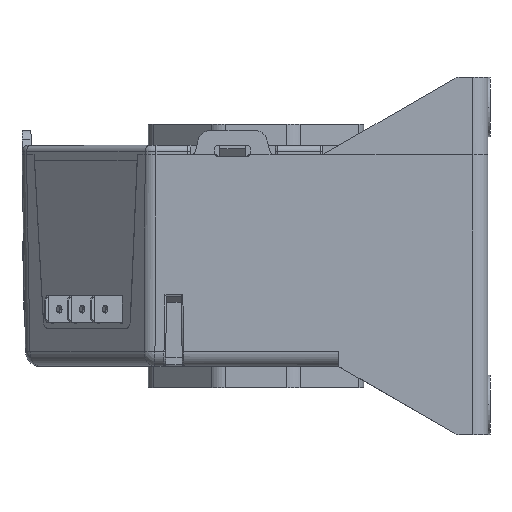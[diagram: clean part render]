
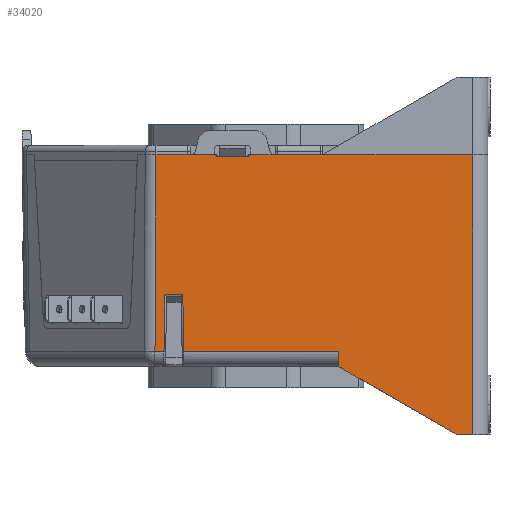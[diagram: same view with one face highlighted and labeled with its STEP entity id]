
A CAD part, left-side view. The second image highlights one B-rep face of the part: STEP entity #34020.
In plain terms, the highlighted planar face has unit normal (-1, 0, -0.018).
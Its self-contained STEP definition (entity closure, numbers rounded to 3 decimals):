
#27230=CARTESIAN_POINT('',(-50.,24.009,-7.2));
#27240=VERTEX_POINT('',#27230);
#27270=CARTESIAN_POINT('',(-50.,24.009,-7.2));
#27280=DIRECTION('',(0.017,0.005,
-1.));
#27290=VECTOR('',#27280,1.);
#27300=LINE('',#27270,#27290);
#27310=CARTESIAN_POINT('',(-49.192,24.245,
-53.463));
#27320=VERTEX_POINT('',#27310);
#27330=EDGE_CURVE('',#27240,#27320,#27300,.T.);
#28080=CARTESIAN_POINT('',(-49.192,17.47,
-53.463));
#28090=VERTEX_POINT('',#28080);
#28120=CARTESIAN_POINT('',(-49.192,-18.987,
-53.463));
#28130=DIRECTION('',(0.,1.,0.));
#28140=VECTOR('',#28130,1.);
#28150=LINE('',#28120,#28140);
#28160=CARTESIAN_POINT('',(-49.192,-18.987,
-53.463));
#28170=VERTEX_POINT('',#28160);
#28180=EDGE_CURVE('',#28170,#28090,#28150,.T.);
#28360=CARTESIAN_POINT('',(-49.192,22.13,
-53.463));
#28370=DIRECTION('',(0.,1.,0.));
#28380=VECTOR('',#28370,1.);
#28390=LINE('',#28360,#28380);
#28400=CARTESIAN_POINT('',(-49.192,22.13,
-53.463));
#28410=VERTEX_POINT('',#28400);
#28420=EDGE_CURVE('',#28410,#27320,#28390,.T.);
#29300=CARTESIAN_POINT('',(-49.192,22.13,
-53.463));
#29310=DIRECTION('',(-0.017,-0.017,
1.));
#29320=VECTOR('',#29310,1.);
#29330=LINE('',#29300,#29320);
#29340=CARTESIAN_POINT('',(-49.425,21.897,
-40.134));
#29350=VERTEX_POINT('',#29340);
#29360=EDGE_CURVE('',#28410,#29350,#29330,.T.);
#32140=CARTESIAN_POINT('',(-49.425,17.703,
-40.134));
#32150=VERTEX_POINT('',#32140);
#32180=CARTESIAN_POINT('',(-49.425,17.703,
-40.134));
#32190=DIRECTION('',(0.017,-0.017,
-1.));
#32200=VECTOR('',#32190,1.);
#32210=LINE('',#32180,#32200);
#32220=EDGE_CURVE('',#32150,#28090,#32210,.T.);
#32440=CARTESIAN_POINT('',(-49.425,17.703,
-40.134));
#32450=DIRECTION('',(0.,1.,0.));
#32460=VECTOR('',#32450,1.);
#32470=LINE('',#32440,#32460);
#32480=EDGE_CURVE('',#32150,#29350,#32470,.T.);
#32600=CARTESIAN_POINT('',(-49.635,-26.301,
-28.101));
#32610=DIRECTION('',(-1.,-0.,-0.017));
#32620=DIRECTION('',(0.,-1.,0.));
#32630=AXIS2_PLACEMENT_3D('',#32600,#32610,#32620);
#32640=PLANE('',#32630);
#32650=ORIENTED_EDGE('',*,*,#29360,.T.);
#32660=ORIENTED_EDGE('',*,*,#28420,.F.);
#32670=ORIENTED_EDGE('',*,*,#27330,.T.);
#32680=CARTESIAN_POINT('',(-50.,16.5,-7.2));
#32690=DIRECTION('',(0.,1.,0.));
#32700=VECTOR('',#32690,1.);
#32710=LINE('',#32680,#32700);
#32720=CARTESIAN_POINT('',(-50.,16.5,-7.2));
#32730=VERTEX_POINT('',#32720);
#32740=EDGE_CURVE('',#32730,#27240,#32710,.T.);
#32750=ORIENTED_EDGE('',*,*,#32740,.T.);
#32760=CARTESIAN_POINT('',(-50.,15.767,-7.2));
#32770=DIRECTION('',(0.,1.,0.));
#32780=VECTOR('',#32770,1.);
#32790=LINE('',#32760,#32780);
#32800=CARTESIAN_POINT('',(-50.,15.767,-7.2));
#32810=VERTEX_POINT('',#32800);
#32820=EDGE_CURVE('',#32810,#32730,#32790,.T.);
#32830=ORIENTED_EDGE('',*,*,#32820,.T.);
#32840=CARTESIAN_POINT('',(-50.,10.166,-7.2));
#32850=DIRECTION('',(0.,1.,0.));
#32860=VECTOR('',#32850,1.);
#32870=LINE('',#32840,#32860);
#32880=CARTESIAN_POINT('',(-50.,10.166,-7.2));
#32890=VERTEX_POINT('',#32880);
#32900=EDGE_CURVE('',#32890,#32810,#32870,.T.);
#32910=ORIENTED_EDGE('',*,*,#32900,.T.);
#32920=CARTESIAN_POINT('',(-50.009,9.3,-6.7));
#32930=DIRECTION('',(1.,0.,0.017));
#32940=DIRECTION('',(-0.017,0.,1.));
#32950=AXIS2_PLACEMENT_3D('',#32920,#32930,#32940);
#32960=ELLIPSE('',#32950,1.,1.);
#32970=CARTESIAN_POINT('',(-49.991,9.3,-7.7));
#32980=VERTEX_POINT('',#32970);
#32990=EDGE_CURVE('',#32980,#32890,#32960,.T.);
#33000=ORIENTED_EDGE('',*,*,#32990,.T.);
#33010=CARTESIAN_POINT('',(-49.991,9.3,-7.7));
#33020=DIRECTION('',(0.,-1.,0.));
#33030=VECTOR('',#33020,1.);
#33040=LINE('',#33010,#33030);
#33050=CARTESIAN_POINT('',(-49.991,2.7,-7.7));
#33060=VERTEX_POINT('',#33050);
#33070=EDGE_CURVE('',#32980,#33060,#33040,.T.);
#33080=ORIENTED_EDGE('',*,*,#33070,.F.);
#33090=CARTESIAN_POINT('',(-50.009,2.7,-6.7));
#33100=DIRECTION('',(1.,0.,0.017));
#33110=DIRECTION('',(-0.017,0.,1.));
#33120=AXIS2_PLACEMENT_3D('',#33090,#33100,#33110);
#33130=ELLIPSE('',#33120,1.,1.);
#33140=CARTESIAN_POINT('',(-50.,1.834,-7.2));
#33150=VERTEX_POINT('',#33140);
#33160=EDGE_CURVE('',#33150,#33060,#33130,.T.);
#33170=ORIENTED_EDGE('',*,*,#33160,.T.);
#33180=CARTESIAN_POINT('',(-50.,-3.767,-7.2));
#33190=DIRECTION('',(0.,1.,0.));
#33200=VECTOR('',#33190,1.);
#33210=LINE('',#33180,#33200);
#33220=CARTESIAN_POINT('',(-50.,-3.767,-7.2));
#33230=VERTEX_POINT('',#33220);
#33240=EDGE_CURVE('',#33230,#33150,#33210,.T.);
#33250=ORIENTED_EDGE('',*,*,#33240,.T.);
#33260=CARTESIAN_POINT('',(-50.,-4.5,-7.2));
#33270=DIRECTION('',(0.,1.,0.));
#33280=VECTOR('',#33270,1.);
#33290=LINE('',#33260,#33280);
#33300=CARTESIAN_POINT('',(-50.,-4.5,-7.2));
#33310=VERTEX_POINT('',#33300);
#33320=EDGE_CURVE('',#33310,#33230,#33290,.T.);
#33330=ORIENTED_EDGE('',*,*,#33320,.T.);
#33340=CARTESIAN_POINT('',(-50.,-14.65,-7.2));
#33350=DIRECTION('',(0.,1.,0.));
#33360=VECTOR('',#33350,1.);
#33370=LINE('',#33340,#33360);
#33380=CARTESIAN_POINT('',(-50.,-14.65,-7.2));
#33390=VERTEX_POINT('',#33380);
#33400=EDGE_CURVE('',#33390,#33310,#33370,.T.);
#33410=ORIENTED_EDGE('',*,*,#33400,.T.);
#33420=CARTESIAN_POINT('',(-50.,-15.177,-7.2));
#33430=DIRECTION('',(0.,1.,0.));
#33440=VECTOR('',#33430,1.);
#33450=LINE('',#33420,#33440);
#33460=CARTESIAN_POINT('',(-50.,-15.177,-7.2));
#33470=VERTEX_POINT('',#33460);
#33480=EDGE_CURVE('',#33470,#33390,#33450,.T.);
#33490=ORIENTED_EDGE('',*,*,#33480,.T.);
#33500=CARTESIAN_POINT('',(-50.,-50.4,-7.2));
#33510=DIRECTION('',(0.,1.,0.));
#33520=VECTOR('',#33510,1.);
#33530=LINE('',#33500,#33520);
#33540=CARTESIAN_POINT('',(-50.,-50.4,-7.2));
#33550=VERTEX_POINT('',#33540);
#33560=EDGE_CURVE('',#33550,#33470,#33530,.T.);
#33570=ORIENTED_EDGE('',*,*,#33560,.T.);
#33580=CARTESIAN_POINT('',(-50.,-50.4,-7.2));
#33590=DIRECTION('',(0.017,0.,-1.));
#33600=VECTOR('',#33590,1.);
#33610=LINE('',#33580,#33600);
#33620=CARTESIAN_POINT('',(-48.851,-50.4,-73.));
#33630=VERTEX_POINT('',#33620);
#33640=EDGE_CURVE('',#33550,#33630,#33610,.T.);
#33650=ORIENTED_EDGE('',*,*,#33640,.F.);
#33660=CARTESIAN_POINT('',(-48.851,-50.4,-73.));
#33670=DIRECTION('',(0.,1.,0.));
#33680=VECTOR('',#33670,1.);
#33690=LINE('',#33660,#33680);
#33700=CARTESIAN_POINT('',(-48.851,-47.343,-73.));
#33710=VERTEX_POINT('',#33700);
#33720=EDGE_CURVE('',#33630,#33710,#33690,.T.);
#33730=ORIENTED_EDGE('',*,*,#33720,.F.);
#33740=CARTESIAN_POINT('',(-48.893,-47.343,-70.6));
#33750=DIRECTION('',(1.,0.,0.017));
#33760=DIRECTION('',(0.017,0.,-1.));
#33770=AXIS2_PLACEMENT_3D('',#33740,#33750,#33760);
#33780=ELLIPSE('',#33770,2.4,2.4);
#33790=CARTESIAN_POINT('',(-48.857,-46.143,
-72.678));
#33800=VERTEX_POINT('',#33790);
#33810=EDGE_CURVE('',#33710,#33800,#33780,.T.);
#33820=ORIENTED_EDGE('',*,*,#33810,.F.);
#33830=CARTESIAN_POINT('',(-49.131,-18.987,
-57.));
#33840=DIRECTION('',(0.009,-0.866,
-0.5));
#33850=VECTOR('',#33840,1.);
#33860=LINE('',#33830,#33850);
#33870=CARTESIAN_POINT('',(-49.131,-18.987,-57.));
#33880=VERTEX_POINT('',#33870);
#33890=EDGE_CURVE('',#33880,#33800,#33860,.T.);
#33900=ORIENTED_EDGE('',*,*,#33890,.T.);
#33910=CARTESIAN_POINT('',(-49.131,-18.987,-57.));
#33920=DIRECTION('',(-0.017,0.,1.));
#33930=VECTOR('',#33920,1.);
#33940=LINE('',#33910,#33930);
#33950=EDGE_CURVE('',#33880,#28170,#33940,.T.);
#33960=ORIENTED_EDGE('',*,*,#33950,.F.);
#33970=ORIENTED_EDGE('',*,*,#28180,.F.);
#33980=ORIENTED_EDGE('',*,*,#32220,.T.);
#33990=ORIENTED_EDGE('',*,*,#32480,.F.);
#34000=EDGE_LOOP('',(#33990,#33980,#33970,#33960,#33900,#33820,#33730,
#33650,#33570,#33490,#33410,#33330,#33250,#33170,#33080,#33000,#32910,
#32830,#32750,#32670,#32660,#32650));
#34010=FACE_OUTER_BOUND('',#34000,.T.);
#34020=ADVANCED_FACE('',(#34010),#32640,.T.);
